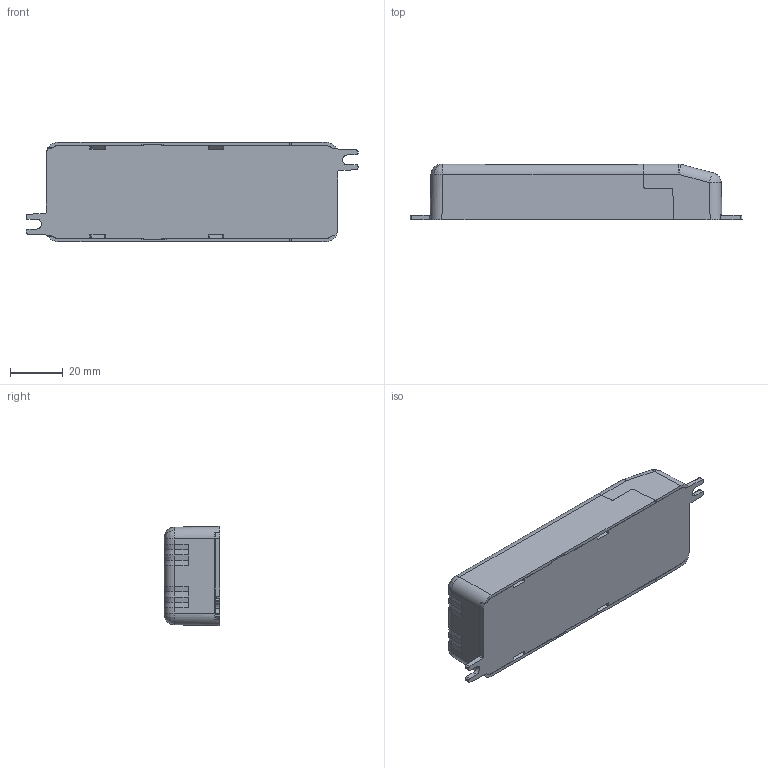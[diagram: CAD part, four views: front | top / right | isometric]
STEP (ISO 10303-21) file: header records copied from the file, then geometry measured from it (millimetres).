
FILE_DESCRIPTION (( 'STEP AP214' ), '1' );
FILE_NAME ('KU2.STEP', '2015-03-09T16:41:07', ( '' ), ( '' ), 'SwSTEP 2.0', 'SolidWorks 2014', '' );
FILE_SCHEMA (( 'AUTOMOTIVE_DESIGN' ));
Length unit declared in the file: millimetre
Products named in the file (1): KU2
Bounding box: 126.4 x 21.2 x 37.8 mm (x, y, z)
Surface area: 20712.8 mm2 (no closed solid volume)
Topology: 0 solids, 3 shells, 374 faces, 1246 edges, 856 vertices
Faces by surface type: plane 209, cylinder 91, cone 38, bspline 25, torus 9, sphere 2
Entity records: 18006 total; most frequent: CARTESIAN_POINT 3949, ORIENTED_EDGE 2044, DIRECTION 1882, EDGE_CURVE 1244, VERTEX_POINT 856, LINE 844, VECTOR 844, AXIS2_PLACEMENT_3D 519
